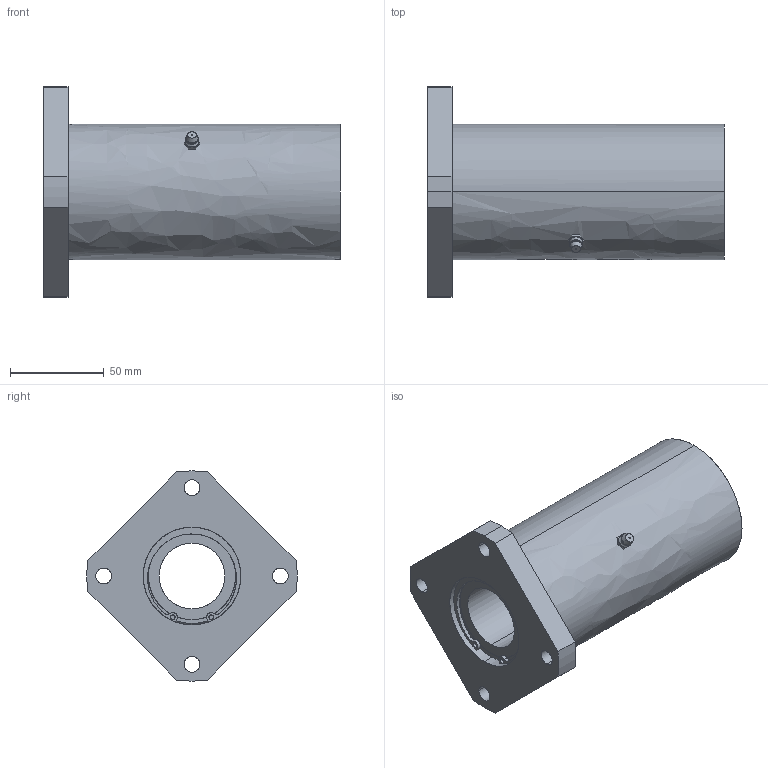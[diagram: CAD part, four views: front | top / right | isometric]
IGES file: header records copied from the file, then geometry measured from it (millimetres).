
Global section: file name: No Iges File Name specified; native system: AutoDesk Inventor R10; preprocessor: AutoDesk Inventor Iges Exporter R10; author: No Author specified; organization: No Organization specified; date: 20101214.140257; units: millimetre
Bounding box: 158 x 111.86 x 112 mm (x, y, z)
Surface area: 80057.4 mm2 (no closed solid volume)
Topology: 0 solids, 0 shells, 155 faces, 1084 edges, 1082 vertices
Faces by surface type: bspline 155
